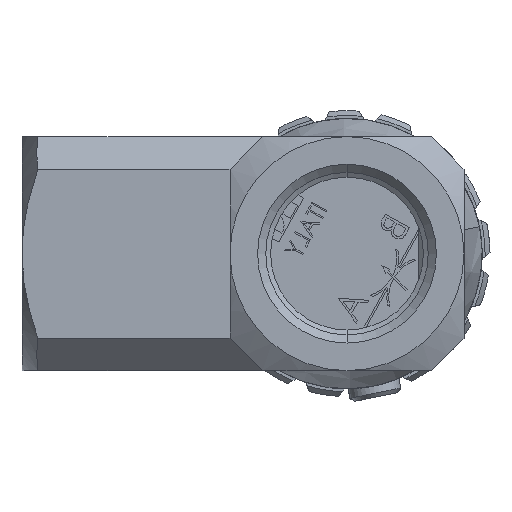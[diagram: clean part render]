
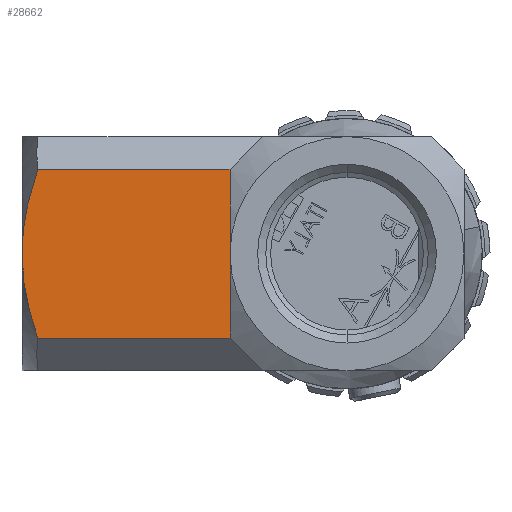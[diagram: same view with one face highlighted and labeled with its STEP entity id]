
A CAD part, front view. The second image highlights one B-rep face of the part: STEP entity #28662.
In plain terms, the highlighted planar face has unit normal (0, -1, 0).
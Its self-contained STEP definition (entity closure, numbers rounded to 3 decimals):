
#444 = DIRECTION ( 'NONE',  ( -1., 0., 0. ) ) ;
#550 = CARTESIAN_POINT ( 'NONE',  ( -9., -9., -9. ) ) ;
#947 = ORIENTED_EDGE ( 'NONE', *, *, #7812, .T. ) ;
#1653 = VERTEX_POINT ( 'NONE', #12782 ) ;
#1831 = CARTESIAN_POINT ( 'NONE',  ( -25., -9., 9. ) ) ;
#2231 = CARTESIAN_POINT ( 'NONE',  ( -25., -9., -1.111 ) ) ;
#2540 = EDGE_CURVE ( 'NONE', #14228, #6376, #23843, .T. ) ;
#3575 = EDGE_CURVE ( 'NONE', #7560, #14228, #18238, .T. ) ;
#4099 = DIRECTION ( 'NONE',  ( 0., 0., -1. ) ) ;
#5056 = CARTESIAN_POINT ( 'NONE',  ( -24.769, -9., 2.762 ) ) ;
#5247 = ORIENTED_EDGE ( 'NONE', *, *, #3575, .T. ) ;
#6376 = VERTEX_POINT ( 'NONE', #19956 ) ;
#6765 = CARTESIAN_POINT ( 'NONE',  ( -24.448, -9., -4.375 ) ) ;
#6974 = LINE ( 'NONE', #550, #18230 ) ;
#7310 = CARTESIAN_POINT ( 'NONE',  ( -24.97, -9., 1.115 ) ) ;
#7560 = VERTEX_POINT ( 'NONE', #11718 ) ;
#7812 = EDGE_CURVE ( 'NONE', #6376, #1653, #22517, .T. ) ;
#9035 = CARTESIAN_POINT ( 'NONE',  ( -23.787, -9., -6.5 ) ) ;
#9571 = CARTESIAN_POINT ( 'NONE',  ( -25., -9., 0. ) ) ;
#10598 = PLANE ( 'NONE',  #10956 ) ;
#10956 = AXIS2_PLACEMENT_3D ( 'NONE', #1831, #17584, #4099 ) ;
#11198 = CARTESIAN_POINT ( 'NONE',  ( -24.878, -9., -2.207 ) ) ;
#11470 = VECTOR ( 'NONE', #444, 1000. ) ;
#11718 = CARTESIAN_POINT ( 'NONE',  ( -23.787, -9., 6.5 ) ) ;
#12782 = CARTESIAN_POINT ( 'NONE',  ( -9., -9., -6.5 ) ) ;
#13920 = CARTESIAN_POINT ( 'NONE',  ( -25., -9., 6.5 ) ) ;
#13989 = CARTESIAN_POINT ( 'NONE',  ( -23.787, -9., 6.5 ) ) ;
#14228 = VERTEX_POINT ( 'NONE', #18259 ) ;
#14260 = EDGE_CURVE ( 'NONE', #25297, #7560, #28778, .T. ) ;
#14953 = CARTESIAN_POINT ( 'NONE',  ( -9., -9., -6.5 ) ) ;
#15321 = CARTESIAN_POINT ( 'NONE',  ( -9., -9., 6.5 ) ) ;
#15680 = FACE_OUTER_BOUND ( 'NONE', #28559, .T. ) ;
#16254 = CARTESIAN_POINT ( 'NONE',  ( -24.142, -9., 5.448 ) ) ;
#17330 = ORIENTED_EDGE ( 'NONE', *, *, #20356, .F. ) ;
#17346 = ORIENTED_EDGE ( 'NONE', *, *, #14260, .T. ) ;
#17584 = DIRECTION ( 'NONE',  ( 0., -1., 0. ) ) ;
#18230 = VECTOR ( 'NONE', #20839, 1000. ) ;
#18238 = B_SPLINE_CURVE_WITH_KNOTS ( 'NONE', 3,
 ( #13989, #16254, #18516, #5056, #20795, #7310, #23065, #9571 ),
 .UNSPECIFIED., .F., .F.,
 ( 4, 2, 2, 4 ),
 ( 0.024, 0.027, 0.029, 0.031 ),
 .UNSPECIFIED. ) ;
#18259 = CARTESIAN_POINT ( 'NONE',  ( -25., -9., 0. ) ) ;
#18516 = CARTESIAN_POINT ( 'NONE',  ( -24.446, -9., 4.384 ) ) ;
#19685 = DIRECTION ( 'NONE',  ( 1., 0., 0. ) ) ;
#19956 = CARTESIAN_POINT ( 'NONE',  ( -23.787, -9., -6.5 ) ) ;
#20235 = CARTESIAN_POINT ( 'NONE',  ( -25., -9., 0. ) ) ;
#20335 = ORIENTED_EDGE ( 'NONE', *, *, #2540, .T. ) ;
#20356 = EDGE_CURVE ( 'NONE', #25297, #1653, #6974, .T. ) ;
#20795 = CARTESIAN_POINT ( 'NONE',  ( -24.854, -9., 2.217 ) ) ;
#20839 = DIRECTION ( 'NONE',  ( 0., 0., -1. ) ) ;
#22517 = LINE ( 'NONE', #14953, #28534 ) ;
#22530 = CARTESIAN_POINT ( 'NONE',  ( -24.141, -9., -5.451 ) ) ;
#23065 = CARTESIAN_POINT ( 'NONE',  ( -25., -9., 0.555 ) ) ;
#23843 = B_SPLINE_CURVE_WITH_KNOTS ( 'NONE', 3,
 ( #20235, #2231, #11198, #6765, #22530, #9035 ),
 .UNSPECIFIED., .F., .F.,
 ( 4, 2, 4 ),
 ( 0.031, 0.034, 0.037 ),
 .UNSPECIFIED. ) ;
#25297 = VERTEX_POINT ( 'NONE', #15321 ) ;
#28534 = VECTOR ( 'NONE', #19685, 1000. ) ;
#28559 = EDGE_LOOP ( 'NONE', ( #17346, #5247, #20335, #947, #17330 ) ) ;
#28662 = ADVANCED_FACE ( 'NONE', ( #15680 ), #10598, .T. ) ;
#28778 = LINE ( 'NONE', #13920, #11470 ) ;
